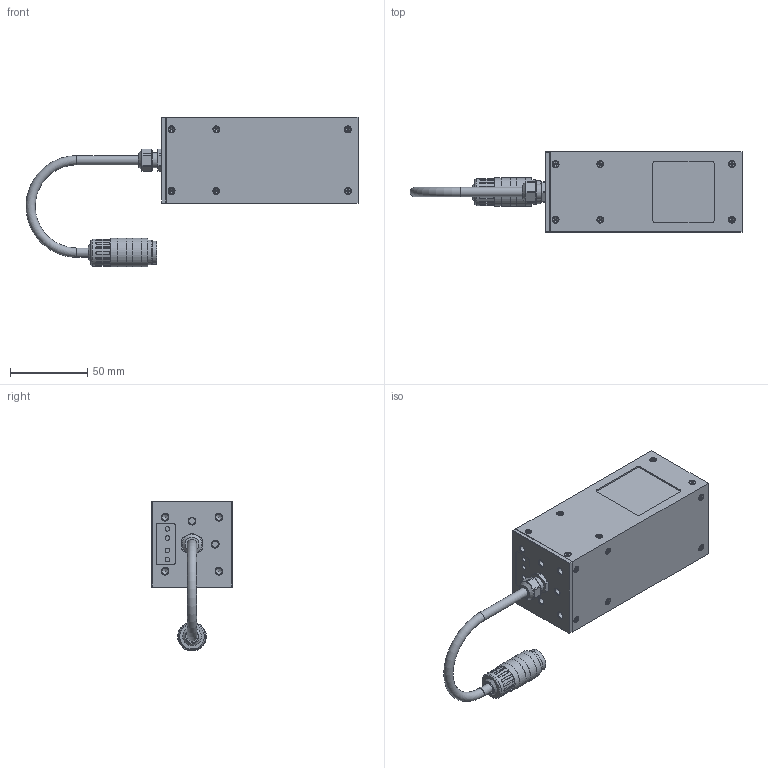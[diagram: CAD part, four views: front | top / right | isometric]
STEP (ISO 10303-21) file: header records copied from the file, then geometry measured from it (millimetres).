
FILE_DESCRIPTION(/* description */ ('Unknown','CAx-IF Rec.Pracs.---Representation and Presentation of Product Manufacturing Information (PMI)---4.0---2014-10-13','CAx-IF Rec.Pracs.---3D Tessellated Geometry---0.4---2014-09-14','2;1'),/* implementation_level */ '2;1');
FILE_NAME(/* name */ '10X.0081_LES40_LES40FL',/* time_stamp */ '2021-06-15T15:20:37+02:00',/* author */ ('AW'),/* organization */ ('iiM AG'),/* preprocessor_version */ 'ST-DEVELOPER v16.7',/* originating_system */ 'DEX',/* authorisation */ $);
FILE_SCHEMA (('AP242_MANAGED_MODEL_BASED_3D_ENGINEERING_MIM_LF { 1 0 10303 442 1 1 4 }'));
Length unit declared in the file: millimetre
Products named in the file (1): LES40_LES40FL_vereinfacht
Bounding box: 215.49 x 52 x 97.3 mm (x, y, z)
Volume: 130199.6 mm3; surface area: 74939.4 mm2
Topology: 13 solids, 13 shells, 1275 faces, 3395 edges, 2238 vertices
Faces by surface type: plane 671, cylinder 471, cone 72, torus 49, sphere 12
Full cylindrical faces by diameter (mm): 1 x12, 1.454 x24, 1.567 x4, 2 x24, 2.4 x24, 3 x4, 4 x2, 4.134 x19, 6 x2, 6.25 x1, 7 x2, 8 x1, 8.376 x1, 10 x1, 12.9 x2, 15 x1, 16 x1, 17.5 x1, 18.5 x3, 18.6 x2
Entity records: 45292 total; most frequent: CARTESIAN_POINT 7038, DIRECTION 6350, ORIENTED_EDGE 5964, EDGE_CURVE 2982, AXIS2_PLACEMENT_3D 2300, VERTEX_POINT 2108, LINE 1750, VECTOR 1750
